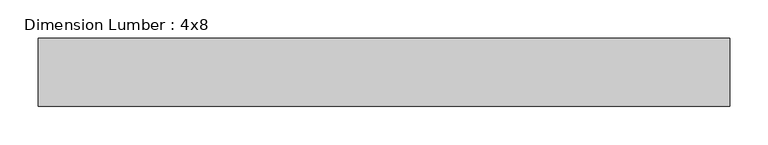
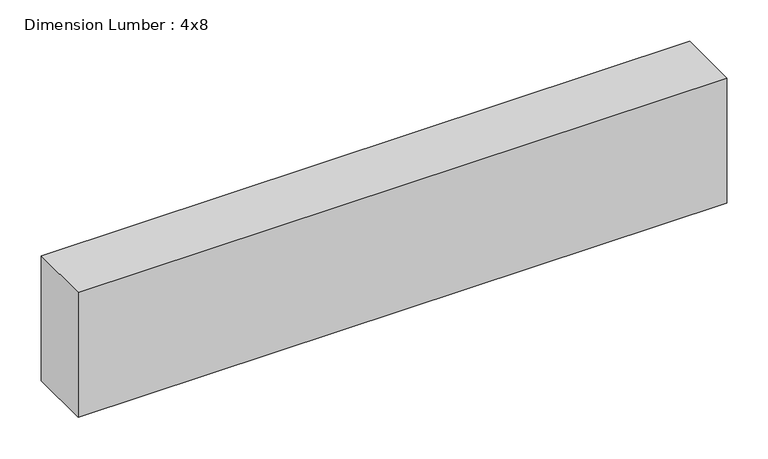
"""IFC4 building model written with IfcOpenShell, lengths in millimetres: beam geometry, Dimension Lumber : 4x8."""

from ifc_helpers import new_model, si_unit, frame, origin, place, context, project, spatial, polyline, outline, extrude, source, transform, mapped, element, save


def dimension_lumber_4x8_4c98030d(model_context):
    return source(origin(), model_context, "Body", "SweptSolid", [
        extrude(outline(polyline([(450.85, 44.45), (450.85, -44.45), (-450.85, -44.45), (-450.85, 44.45), (450.85, 44.45)])), frame((0.0, 0.0, -92.075), z_axis=(0.0, 0.0, 1.0), x_axis=(1.0, 0.0, 0.0)), (0.0, 0.0, 1.0), 184.15),
    ])


if __name__ == "__main__":
    model = new_model("IFC4")
    model_context = context("Model", 3, world=origin())
    ifc_project = project(units=[si_unit("LENGTHUNIT", "METRE", prefix="MILLI")], contexts=[model_context])
    site = spatial("IfcSite", under=ifc_project)
    building = spatial("IfcBuilding", under=site)
    placement = place(None, origin())
    dimension_lumber_4x8_shape = dimension_lumber_4x8_4c98030d(model_context)
    element("IfcBeam", 1, ObjectType="Dimension Lumber : 4x8", at=placement, inside=building, context=model_context, shape_type="MappedRepresentation", body=[
        mapped(dimension_lumber_4x8_shape, transform((0.0, 0.0, 0.0), x_axis=(1.0, 0.0, 0.0), y_axis=(0.0, 1.0, 0.0), z_axis=(0.0, 0.0, 1.0))),
    ])
    save(model, "model.ifc")
